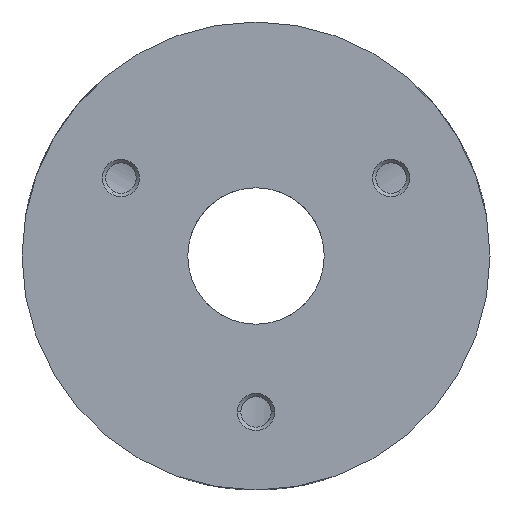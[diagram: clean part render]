
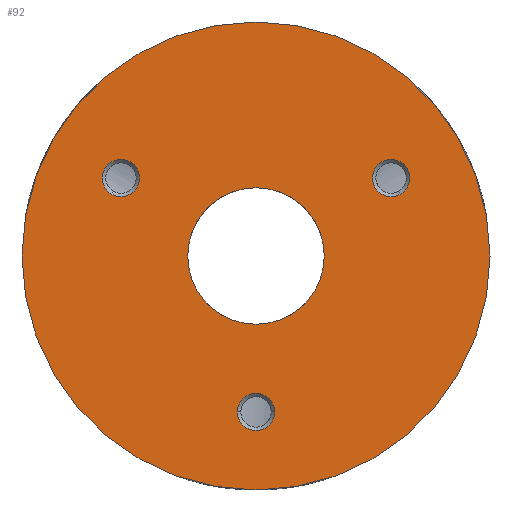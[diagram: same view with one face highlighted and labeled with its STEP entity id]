
A CAD part, front view. The second image highlights one B-rep face of the part: STEP entity #92.
In plain terms, the highlighted planar face has unit normal (0, -1, 0).
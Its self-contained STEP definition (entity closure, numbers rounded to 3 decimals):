
#82=PLANE('',#1159);
#92=ADVANCED_FACE('',(#218,#219,#220,#221,#155),#82,.T.);
#155=FACE_OUTER_BOUND('',#242,.F.);
#218=FACE_BOUND('',#238,.F.);
#219=FACE_BOUND('',#239,.F.);
#220=FACE_BOUND('',#240,.F.);
#221=FACE_BOUND('',#241,.F.);
#238=EDGE_LOOP('',(#324,#325));
#239=EDGE_LOOP('',(#326,#327));
#240=EDGE_LOOP('',(#328,#329));
#241=EDGE_LOOP('',(#330,#331));
#242=EDGE_LOOP('',(#332,#333));
#324=ORIENTED_EDGE('',*,*,#840,.T.);
#325=ORIENTED_EDGE('',*,*,#841,.T.);
#326=ORIENTED_EDGE('',*,*,#855,.T.);
#327=ORIENTED_EDGE('',*,*,#854,.T.);
#328=ORIENTED_EDGE('',*,*,#846,.T.);
#329=ORIENTED_EDGE('',*,*,#847,.T.);
#330=ORIENTED_EDGE('',*,*,#852,.T.);
#331=ORIENTED_EDGE('',*,*,#853,.T.);
#332=ORIENTED_EDGE('',*,*,#848,.F.);
#333=ORIENTED_EDGE('',*,*,#851,.F.);
#782=CIRCLE('',#1124,4.762);
#783=CIRCLE('',#1125,4.762);
#785=CIRCLE('',#1127,4.762);
#786=CIRCLE('',#1128,4.762);
#787=CIRCLE('',#1129,60.);
#788=CIRCLE('',#1130,60.);
#789=CIRCLE('',#1131,17.5);
#790=CIRCLE('',#1132,17.5);
#791=CIRCLE('',#1133,4.762);
#792=CIRCLE('',#1134,4.762);
#840=EDGE_CURVE('',#1077,#1076,#782,.T.);
#841=EDGE_CURVE('',#1076,#1077,#783,.T.);
#846=EDGE_CURVE('',#1071,#1070,#785,.T.);
#847=EDGE_CURVE('',#1070,#1071,#786,.T.);
#848=EDGE_CURVE('',#1069,#1068,#787,.T.);
#851=EDGE_CURVE('',#1068,#1069,#788,.T.);
#852=EDGE_CURVE('',#1067,#1066,#789,.T.);
#853=EDGE_CURVE('',#1066,#1067,#790,.T.);
#854=EDGE_CURVE('',#1065,#1064,#791,.T.);
#855=EDGE_CURVE('',#1064,#1065,#792,.T.);
#1064=VERTEX_POINT('',#1581);
#1065=VERTEX_POINT('',#1582);
#1066=VERTEX_POINT('',#1583);
#1067=VERTEX_POINT('',#1584);
#1068=VERTEX_POINT('',#1585);
#1069=VERTEX_POINT('',#1586);
#1070=VERTEX_POINT('',#1587);
#1071=VERTEX_POINT('',#1588);
#1076=VERTEX_POINT('',#1593);
#1077=VERTEX_POINT('',#1594);
#1124=AXIS2_PLACEMENT_3D('',#1702,#1248,#1249);
#1125=AXIS2_PLACEMENT_3D('',#1703,#1250,#1251);
#1127=AXIS2_PLACEMENT_3D('',#1775,#1254,#1255);
#1128=AXIS2_PLACEMENT_3D('',#1776,#1256,#1257);
#1129=AXIS2_PLACEMENT_3D('',#1777,#1258,#1259);
#1130=AXIS2_PLACEMENT_3D('',#1780,#1262,#1263);
#1131=AXIS2_PLACEMENT_3D('',#1781,#1264,#1265);
#1132=AXIS2_PLACEMENT_3D('',#1782,#1266,#1267);
#1133=AXIS2_PLACEMENT_3D('',#1783,#1268,#1269);
#1134=AXIS2_PLACEMENT_3D('',#1784,#1270,#1271);
#1159=AXIS2_PLACEMENT_3D('',#2107,#1352,#1353);
#1248=DIRECTION('',(0.,-1.,0.));
#1249=DIRECTION('',(-1.,0.,0.));
#1250=DIRECTION('',(0.,-1.,0.));
#1251=DIRECTION('',(1.,0.,0.));
#1254=DIRECTION('',(0.,-1.,0.));
#1255=DIRECTION('',(0.5,0.,-0.866));
#1256=DIRECTION('',(0.,-1.,0.));
#1257=DIRECTION('',(-0.5,0.,0.866));
#1258=DIRECTION('',(0.,-1.,0.));
#1259=DIRECTION('',(1.,0.,0.));
#1262=DIRECTION('',(0.,-1.,0.));
#1263=DIRECTION('',(-1.,0.,0.));
#1264=DIRECTION('',(0.,-1.,0.));
#1265=DIRECTION('',(-1.,0.,0.));
#1266=DIRECTION('',(0.,-1.,0.));
#1267=DIRECTION('',(1.,0.,0.));
#1268=DIRECTION('',(0.,-1.,0.));
#1269=DIRECTION('',(-0.5,0.,-0.866));
#1270=DIRECTION('',(0.,-1.,0.));
#1271=DIRECTION('',(0.5,0.,0.866));
#1352=DIRECTION('',(0.,-1.,0.));
#1353=DIRECTION('',(0.,0.,1.));
#1581=CARTESIAN_POINT('',(-82.252,-23.256,153.12));
#1582=CARTESIAN_POINT('',(-87.014,-23.256,144.871));
#1583=CARTESIAN_POINT('',(-32.5,-23.256,129.));
#1584=CARTESIAN_POINT('',(-67.5,-23.256,129.));
#1585=CARTESIAN_POINT('',(-110.,-23.256,129.));
#1586=CARTESIAN_POINT('',(10.,-23.256,129.));
#1587=CARTESIAN_POINT('',(-17.748,-23.256,153.12));
#1588=CARTESIAN_POINT('',(-12.986,-23.256,144.871));
#1593=CARTESIAN_POINT('',(-45.238,-23.256,89.009));
#1594=CARTESIAN_POINT('',(-54.762,-23.256,89.009));
#1702=CARTESIAN_POINT('',(-50.,-23.256,89.009));
#1703=CARTESIAN_POINT('',(-50.,-23.256,89.009));
#1775=CARTESIAN_POINT('',(-15.367,-23.256,148.995));
#1776=CARTESIAN_POINT('',(-15.367,-23.256,148.995));
#1777=CARTESIAN_POINT('',(-50.,-23.256,129.));
#1780=CARTESIAN_POINT('',(-50.,-23.256,129.));
#1781=CARTESIAN_POINT('',(-50.,-23.256,129.));
#1782=CARTESIAN_POINT('',(-50.,-23.256,129.));
#1783=CARTESIAN_POINT('',(-84.633,-23.256,148.995));
#1784=CARTESIAN_POINT('',(-84.633,-23.256,148.995));
#2107=CARTESIAN_POINT('',(11.2,-23.256,67.8));
